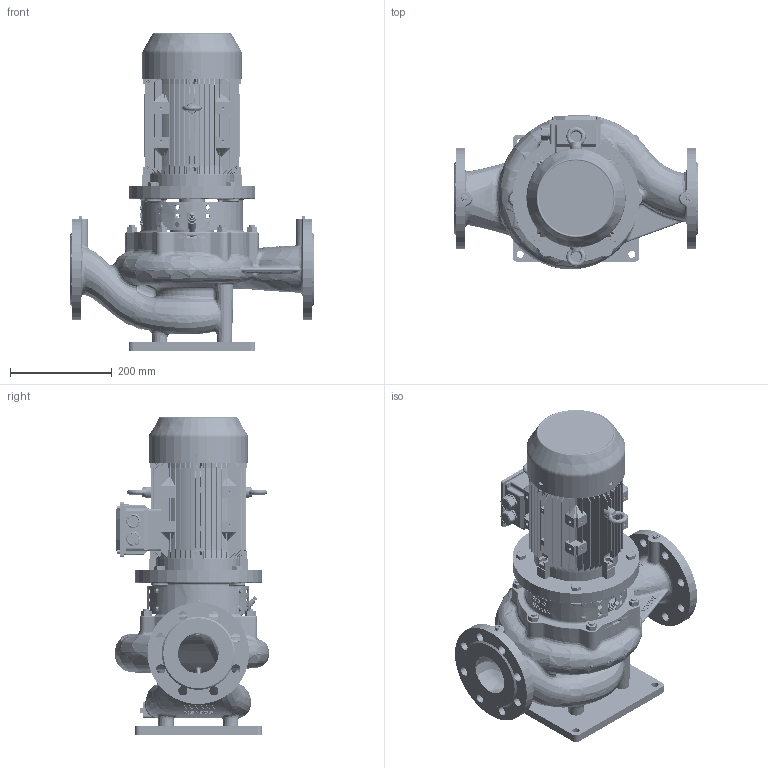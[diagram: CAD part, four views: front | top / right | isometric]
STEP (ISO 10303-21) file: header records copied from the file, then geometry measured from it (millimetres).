
FILE_DESCRIPTION((''),'2;1');
FILE_NAME('494513_ASM','2026-08-12T10:05:59',('brhe'),(''),'CREO PARAMETRIC BY PTC INC, 2023424','CREO PARAMETRIC BY PTC INC, 2023424','');
FILE_SCHEMA(('CONFIG_CONTROL_DESIGN'));
Products named in the file (37): 528162; 528470; 528180; 760085; 700225; 704063; 2039311; E41376; 1833898; 565622; 3100-040AA116; 3116-000AA116; E42637_1; E42637_2; E42637_AF2_ASM; 692823_AF0_ASM; 114811; 700365; 658300_ASM; 115646; 115621; 692812_ASM; 565660; 708791; 115635; 115648_AF0; 720488; 708002; 700306; 703239; 692816_ASM; 712095_AF2; 709485; 690815_AF0_ASM; 704390; 852200; 494513_ASM
Assembly tree (62 placements, depth 4):
  494513_ASM
    692823_AF0_ASM
      528162
      528470  x2
      528180
      760085
      700225  x6
      704063  x6
      2039311
      E41376
      1833898
      565622
      3100-040AA116
      3116-000AA116
      E42637_AF2_ASM
        E42637_1
        E42637_2
    658300_ASM
      114811
      700365  x4
    692816_ASM
      692812_ASM
        115646
        115621
      565660
      708791  x4
      115635
      115648_AF0
      720488  x4
      708002  x3
      700306  x3
      703239  x2
    690815_AF0_ASM
      712095_AF2
      709485
    704390  x2
    852200
Bounding box: 480 x 304.4 x 624.49 mm (x, y, z)
Volume: 12455660.6 mm3; surface area: 2377101.8 mm2
Topology: 74 solids, 114 shells, 5653 faces, 14916 edges, 9580 vertices
Faces by surface type: plane 2391, cylinder 1233, bspline 686, cone 562, extrusion 548, torus 226, revolution 4, sphere 3
Entity records: 301330 total; most frequent: CARTESIAN_POINT 178289, ORIENTED_EDGE 27702, DIRECTION 21692, EDGE_CURVE 13936, VERTEX_POINT 9027, AXIS2_PLACEMENT_3D 7711, VECTOR 6266, LINE 5718
